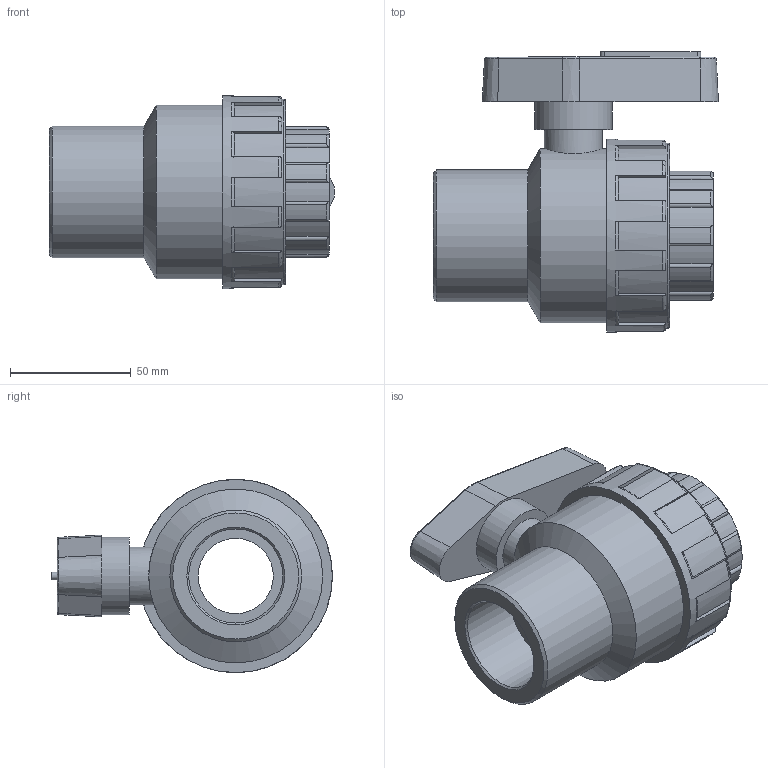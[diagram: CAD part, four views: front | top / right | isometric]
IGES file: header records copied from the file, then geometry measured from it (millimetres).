
Global section: file name: 11351013.ipt; native system: Autodesk Inventor 2015; preprocessor: unknown; author: KIM; date: 20171207.170447; units: millimetre
Bounding box: 118.14 x 116.22 x 80 mm (x, y, z)
Volume: 330216.2 mm3; surface area: 54047.1 mm2
Topology: 1 solids, 1 shells, 166 faces, 447 edges, 290 vertices
Faces by surface type: plane 64, cylinder 52, revolution 34, cone 16
Full cylindrical faces by diameter (mm): 24 x1, 32 x1, 54.533 x1, 72 x1, 76.8 x1, 80 x1
